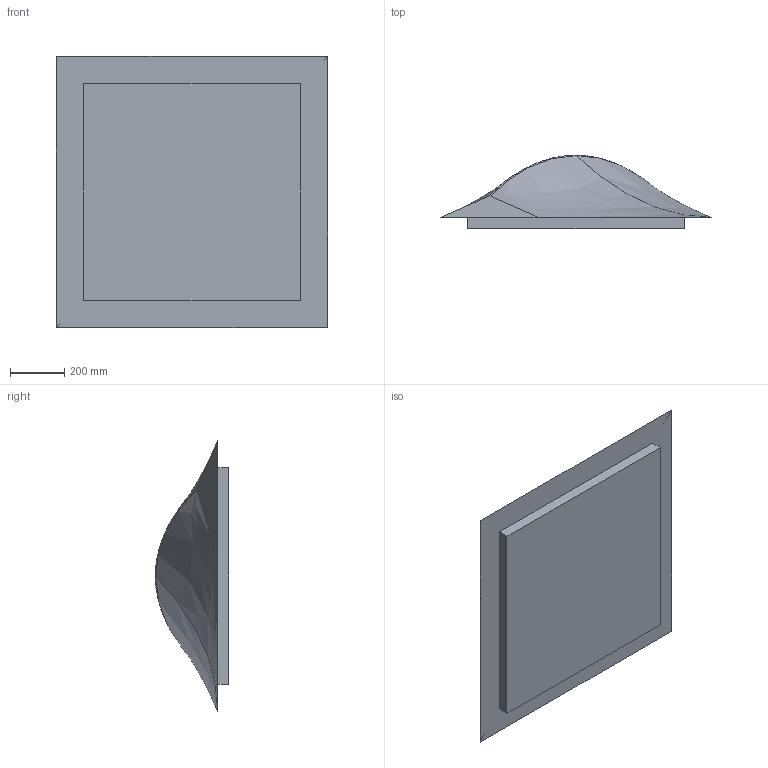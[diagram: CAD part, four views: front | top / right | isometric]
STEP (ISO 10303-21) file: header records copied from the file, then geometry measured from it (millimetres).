
FILE_DESCRIPTION (( 'STEP AP214' ), '1' );
FILE_NAME ('3D_SAORI_621000.STEP', '2018-03-22T13:57:27', ( 'Utente' ), ( '' ), 'SwSTEP 2.0', 'SolidWorks 2016', '' );
FILE_SCHEMA (( 'AUTOMOTIVE_DESIGN' ));
Length unit declared in the file: millimetre
Products named in the file (3): 3D_SAORI1000; Parte11000; 3D_SAORI_621000
Assembly tree (2 placements, depth 2):
  3D_SAORI_621000
    Parte11000
    3D_SAORI1000
Bounding box: 1000 x 270.28 x 1000 mm (x, y, z)
Volume: 93011799.8 mm3; surface area: 3510671.5 mm2
Topology: 2 solids, 2 shells, 17 faces, 39 edges, 26 vertices
Faces by surface type: plane 11, bspline 6
Entity records: 1073 total; most frequent: CARTESIAN_POINT 627, ORIENTED_EDGE 78, DIRECTION 56, EDGE_CURVE 39, VERTEX_POINT 26, VECTOR 24, LINE 24, EDGE_LOOP 17
